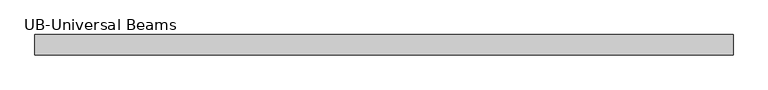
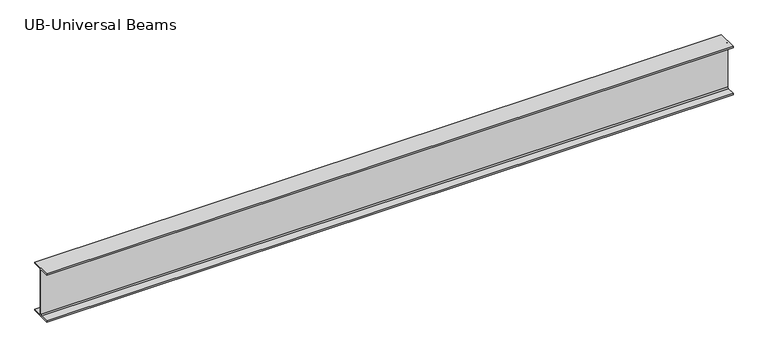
"""IFC4 building model written with IfcOpenShell, lengths in millimetres: beam geometry."""

from ifc_helpers import new_model, si_unit, point, frame, frame_2d, origin, place, context, project, spatial, polyline, circle_curve, trimmed, segment, composite_curve, outline, extrude, source, transform, mapped, element, save


def ub_universal_beams_0fc11a2d(model_context):
    return source(origin(), model_context, "Body", "SweptSolid", [
        extrude(outline(composite_curve([segment(polyline([(104.4, -250.95), (104.4, -264.15), (-104.4, -264.15), (-104.4, -250.95), (-17.5, -250.95)]), True, "CONTINUOUS"), segment(trimmed(circle_curve(frame_2d((-17.5, -238.25)), 12.7), [point((-17.5, -250.95))], [point((-4.8, -238.25))], True, "CARTESIAN"), True, "CONTINUOUS"), segment(polyline([(-4.8, -238.25), (-4.8, 238.25)]), True, "CONTINUOUS"), segment(trimmed(circle_curve(frame_2d((-17.5, 238.25)), 12.7), [point((-4.8, 238.25))], [point((-17.5, 250.95))], True, "CARTESIAN"), True, "CONTINUOUS"), segment(polyline([(-17.5, 250.95), (-104.4, 250.95), (-104.4, 264.15), (104.4, 264.15), (104.4, 250.95), (17.5, 250.95)]), True, "CONTINUOUS"), segment(trimmed(circle_curve(frame_2d((17.5, 238.25)), 12.7), [point((17.5, 250.95))], [point((4.8, 238.25))], True, "CARTESIAN"), True, "CONTINUOUS"), segment(polyline([(4.8, 238.25), (4.8, -238.25)]), True, "CONTINUOUS"), segment(trimmed(circle_curve(frame_2d((17.5, -238.25)), 12.7), [point((4.8, -238.25))], [point((17.5, -250.95))], True, "CARTESIAN"), True, "CONTINUOUS"), segment(polyline([(17.5, -250.95), (104.4, -250.95)]), True, "CONTINUOUS")], self_intersect=False)), frame((-3574.8, 0.0, 0.0), z_axis=(1.0, 0.0, 0.0), x_axis=(0.0, 1.0, 0.0)), (0.0, 0.0, 1.0), 7118.9),
    ])


if __name__ == "__main__":
    model = new_model("IFC4")
    model_context = context("Model", 3, world=origin())
    ifc_project = project(units=[si_unit("LENGTHUNIT", "METRE", prefix="MILLI")], contexts=[model_context])
    site = spatial("IfcSite", under=ifc_project)
    building = spatial("IfcBuilding", under=site)
    placement = place(None, origin())
    ub_universal_beams_shape = ub_universal_beams_0fc11a2d(model_context)
    element("IfcBeam", 1, ObjectType="UB-Universal Beams : UB 20 1/2\" x 8 1/2\" x 3 1/2\"", at=placement, inside=building, context=model_context, shape_type="MappedRepresentation", body=[
        mapped(ub_universal_beams_shape, transform((0.0, 0.0, 0.0), x_axis=(1.0, 0.0, 0.0), y_axis=(0.0, 1.0, 0.0), z_axis=(0.0, 0.0, 1.0))),
    ])
    save(model, "model.ifc")
